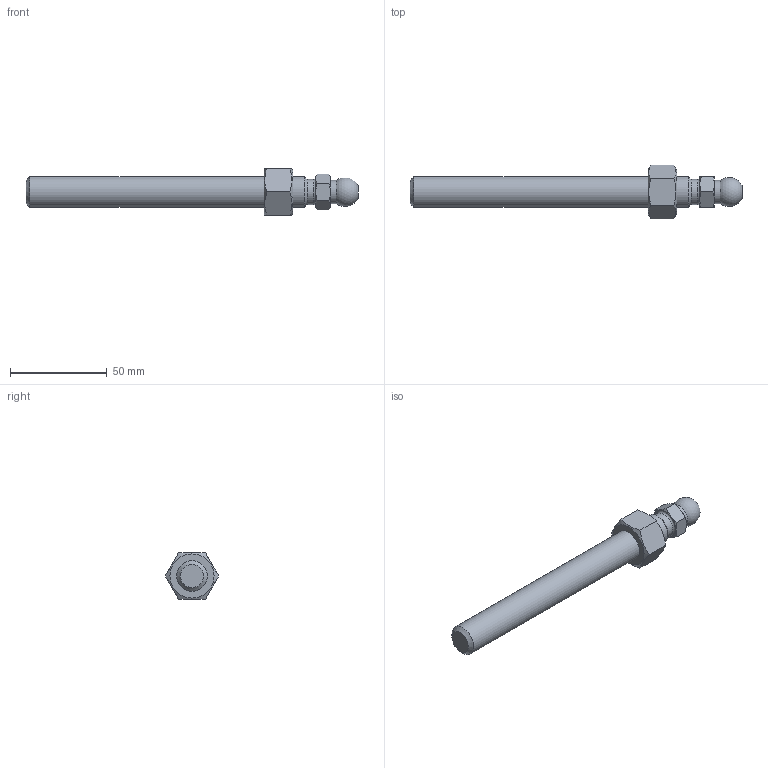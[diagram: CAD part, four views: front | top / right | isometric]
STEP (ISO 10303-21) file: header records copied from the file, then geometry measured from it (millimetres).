
FILE_DESCRIPTION(('STEP AP203'), '1');
FILE_NAME('A00020.116150', '', ('UNSPECIFIED'), ('UNSPECIFIED'), 'C3D Converter', 'C3D Toolkit', '');
FILE_SCHEMA(('CONFIG_CONTROL_DESIGN'));
Length unit declared in the file: millimetre
Products named in the file (2): A00020.116150
Assembly tree (1 placements, depth 2):
  A00020.116150
    (unnamed)
Bounding box: 171.8 x 27.71 x 24 mm (x, y, z)
Volume: 38307.7 mm3; surface area: 11336 mm2
Topology: 2 solids, 2 shells, 41 faces, 90 edges, 55 vertices
Faces by surface type: plane 18, cone 17, cylinder 4, sphere 1, torus 1
Full cylindrical faces by diameter (mm): 12 x1, 13 x1, 13.835 x1, 16 x1
Entity records: 2336 total; most frequent: CARTESIAN_POINT 1206, DIRECTION 160, ORIENTED_EDGE 156, EDGE_CURVE 78, AXIS2_PLACEMENT_3D 74, EDGE_LOOP 57, VERTEX_POINT 55, ADVANCED_FACE 41
